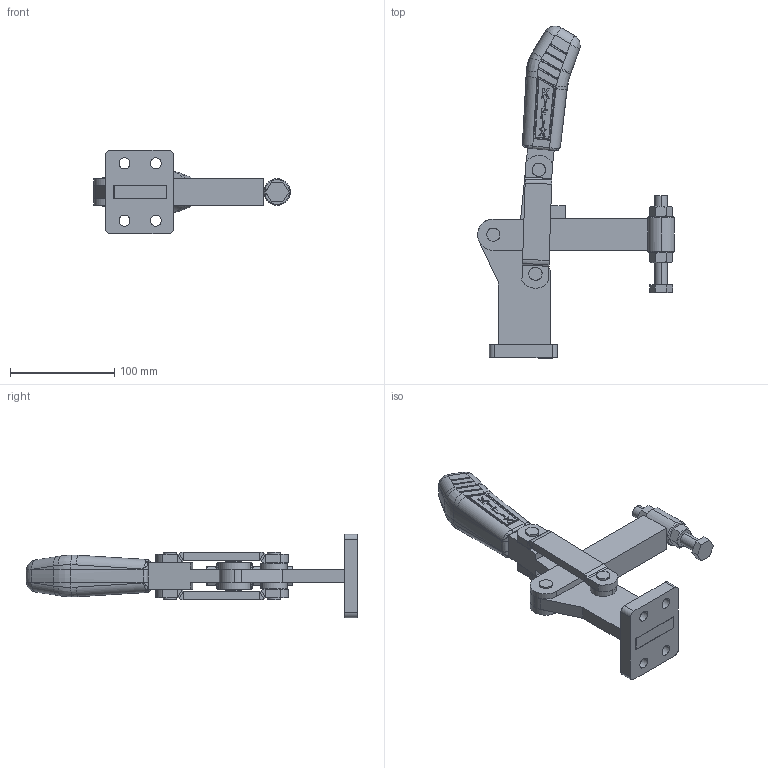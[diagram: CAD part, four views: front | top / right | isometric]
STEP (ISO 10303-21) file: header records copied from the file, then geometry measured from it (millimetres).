
FILE_DESCRIPTION (( 'STEP AP203' ), '1' );
FILE_NAME ('KF-066 TS.STEP', '2014-08-13T19:09:54', ( 'Ricardo' ), ( '' ), 'SwSTEP 2.0', 'SolidWorks 2013', '' );
FILE_SCHEMA (( 'CONFIG_CONTROL_DESIGN' ));
Length unit declared in the file: millimetre
Products named in the file (14): 16.20017; 05.20013; 20.20006; 02.11023; 12.50022; 02.11025; 11.50004; 03.20010; PSB-M12; 01.20006; 07.60203; 08.10020; KF-066 TS; 16.20016
Assembly tree (18 placements, depth 3):
  KF-066 TS
    02.11023
    02.11025
    03.20010
    01.20006
    08.10020  x2
    16.20016  x2
    16.20017  x2
    05.20013  x2
    PSB-M12
      20.20006
      12.50022
      11.50004  x2
    07.60203
Bounding box: 188.42 x 317.76 x 80 mm (x, y, z)
Volume: 476428 mm3; surface area: 137953.6 mm2
Topology: 18 solids, 18 shells, 840 faces, 2137 edges, 1349 vertices
Faces by surface type: plane 314, cylinder 303, bspline 183, cone 34, torus 6
Entity records: 29019 total; most frequent: CARTESIAN_POINT 10827, ORIENTED_EDGE 3954, DIRECTION 2791, EDGE_CURVE 1977, VERTEX_POINT 1257, LINE 971, VECTOR 971, AXIS2_PLACEMENT_3D 910
